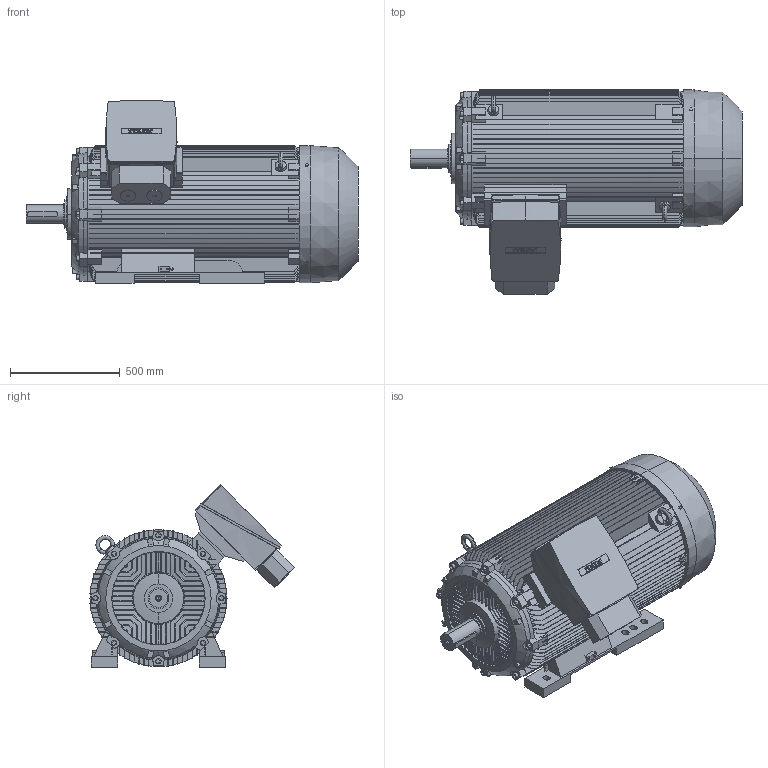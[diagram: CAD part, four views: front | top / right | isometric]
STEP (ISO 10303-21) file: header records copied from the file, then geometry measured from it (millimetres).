
FILE_DESCRIPTION (( 'STEP AP214' ), '1' );
FILE_NAME ('7RN315L06E48 IM1001.STEP', '2018-01-26T08:33:14', ( 'rotor' ), ( 'Hewlett-Packard Company' ), 'SwSTEP 2.0', 'SolidWorks 2015', '' );
FILE_SCHEMA (( 'AUTOMOTIVE_DESIGN' ));
Length unit declared in the file: millimetre
Products named in the file (1): 7RN315L06E48 IM1001
Bounding box: 1512 x 931.72 x 832.25 mm (x, y, z)
Volume: 352695292.6 mm3; surface area: 11008682.9 mm2
Topology: 7 solids, 7 shells, 1726 faces, 4883 edges, 3229 vertices
Faces by surface type: plane 1129, cylinder 319, torus 204, bspline 48, cone 26
Entity records: 83032 total; most frequent: CARTESIAN_POINT 21636, ORIENTED_EDGE 9754, DIRECTION 8161, EDGE_CURVE 4877, VERTEX_POINT 3229, LINE 2837, VECTOR 2837, AXIS2_PLACEMENT_3D 2662
